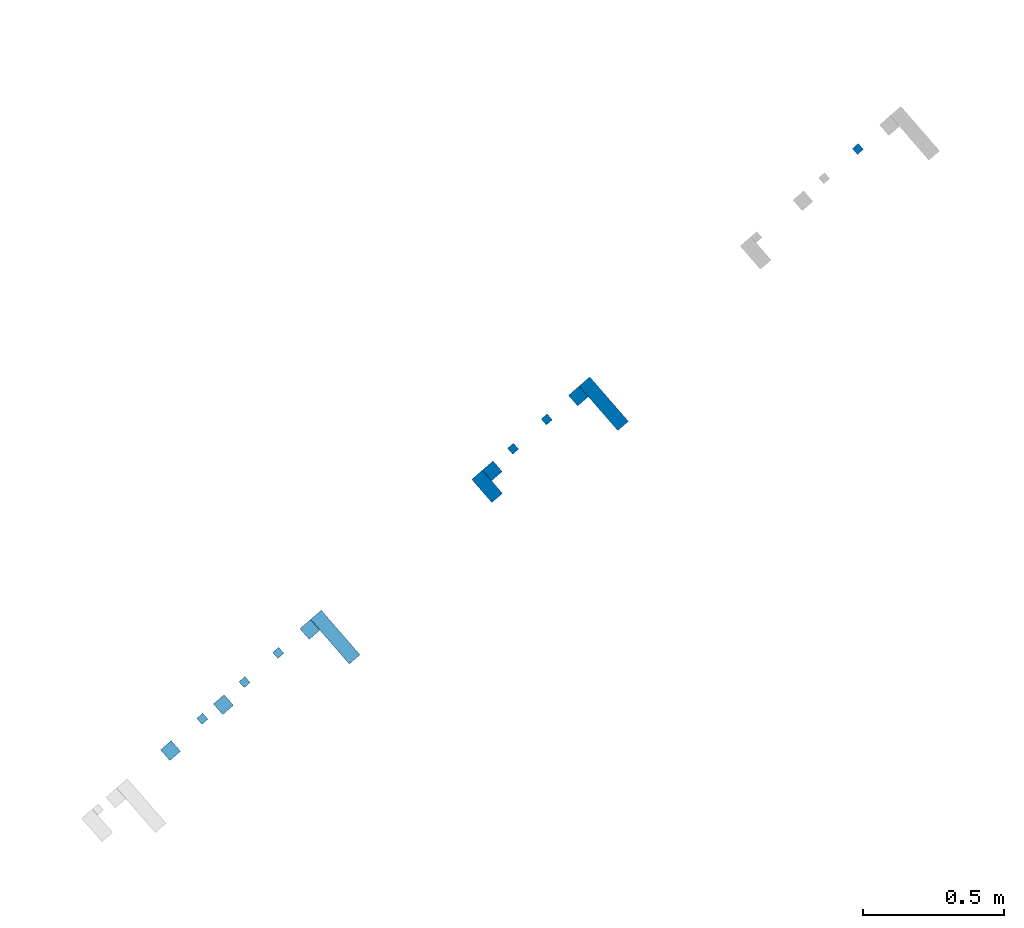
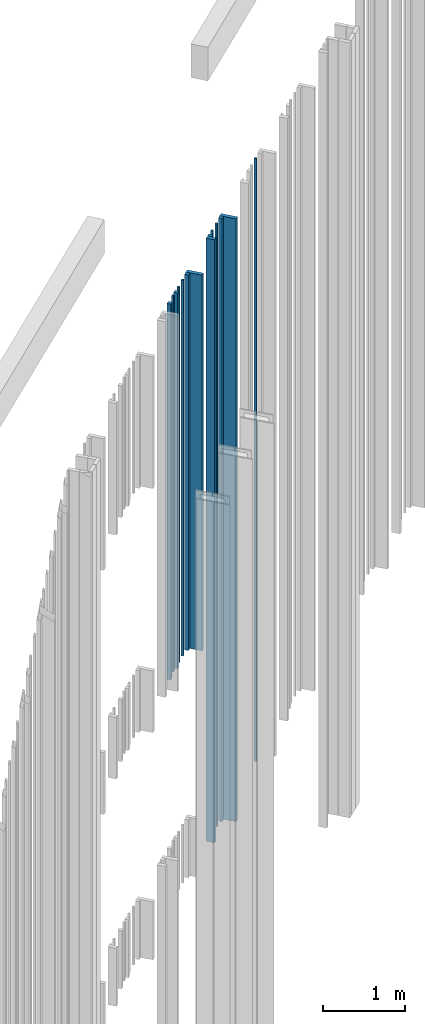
# One storey, part 215 of 390: 14 walls.
"""IFC2X3 building model written with IfcOpenShell, lengths in millimetres."""

from ifc_helpers import new_model, entity, si_unit, converted_unit, derived_unit, money_unit, direction, frame, origin_with_axes, place, context, subcontext, project, spatial, faceted_brep, material, type_object, element, save


model = new_model("IFC2X3")

# Units and contexts
model_context = context("Model", 3, precision=1e-05, world=origin_with_axes(), true_north=direction((0.0, 1.0)))
body_context = subcontext(model_context, "Body", "Model", "MODEL_VIEW")
ifc_project = project(units=[si_unit("LENGTHUNIT", "METRE", prefix="MILLI"), si_unit("AREAUNIT", "SQUARE_METRE"), si_unit("VOLUMEUNIT", "CUBIC_METRE"), converted_unit("PLANEANGLEUNIT", "DEGREE", entity("IfcPlaneAngleMeasure", 0.0174532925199), si_unit("PLANEANGLEUNIT", "RADIAN"), dimensions=[0, 0, 0, 0, 0, 0, 0]), si_unit("SOLIDANGLEUNIT", "STERADIAN"), money_unit("EUR"), converted_unit("TIMEUNIT", "Year", entity("IfcTimeMeasure", 31556926.0), si_unit("TIMEUNIT", "SECOND"), dimensions=[0, 0, 1, 0, 0, 0, 0]), si_unit("MASSUNIT", "GRAM", prefix="KILO"), si_unit("THERMODYNAMICTEMPERATUREUNIT", "DEGREE_CELSIUS"), si_unit("LUMINOUSINTENSITYUNIT", "LUMEN"), si_unit("ENERGYUNIT", "JOULE", prefix="MEGA"), derived_unit("THERMALCONDUCTANCEUNIT", [(si_unit("POWERUNIT", "WATT"), 1), (si_unit("LENGTHUNIT", "METRE"), -1), (si_unit("THERMODYNAMICTEMPERATUREUNIT", "KELVIN"), -1)]), derived_unit("SPECIFICHEATCAPACITYUNIT", [(si_unit("ENERGYUNIT", "JOULE"), 1), (si_unit("MASSUNIT", "GRAM", prefix="KILO"), -1), (si_unit("THERMODYNAMICTEMPERATUREUNIT", "KELVIN"), -1)]), derived_unit("MASSDENSITYUNIT", [(si_unit("MASSUNIT", "GRAM", prefix="KILO"), 1), (si_unit("VOLUMEUNIT", "CUBIC_METRE"), -1)])], contexts=[model_context])

# Site, building, storey
site_placement = place(None, origin_with_axes())
site = spatial("IfcSite", under=ifc_project, at=site_placement, Name="Site", CompositionType="ELEMENT")
building_placement = place(site_placement, origin_with_axes())
building = spatial("IfcBuilding", under=site, at=building_placement, Name="Building", CompositionType="ELEMENT")
storey_placement = place(building_placement, origin_with_axes())
storey = spatial("IfcBuildingStorey", under=building, at=storey_placement, Name="1 korrus", CompositionType="ELEMENT", Elevation=0.0)

# Walls
ifc_material = material(Name="Site specified")
wall_type = type_object("IfcWallType", Name="Puitfassaadi ribistik", PredefinedType="NOTDEFINED")
for number, where, z_axis, x_axis, name in (
    (1, (155862.81752, 80134.6719859, 935.000018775), (0.0, 0.0, 1.0), (-0.754709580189, -0.65605902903, 0.0), "Site specified"),
    (2, (154641.697417, 79073.1684745, 935.000018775), (0.0, 0.0, 1.0), (-0.754709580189, -0.65605902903, 0.0), "Site specified"),
):
    element("IfcWall", number, at=place(storey_placement, frame(where, z_axis=z_axis, x_axis=x_axis)), inside=storey, type_object=wall_type, material=ifc_material, Name=name, context=body_context, shape_type="Brep", body=[
        faceted_brep([(-14.0, -14.0, 8929.99998122), (-14.0, -14.0, 0.0), (14.0, -14.0, 0.0), (14.0, -14.0, 8929.99998122), (-14.0, 14.0, 8929.99998122), (-14.0, 14.0, 0.0), (14.0, 14.0, 0.0), (14.0, 14.0, 8929.99998122)], [[[0, 1, 2, 3]], [[4, 5, 1, 0]], [[2, 1, 5, 6]], [[3, 2, 6, 7]], [[4, 0, 3, 7]], [[7, 6, 5, 4]]]),
    ])
wall_1_placement = place(storey_placement, frame((154549.778403, 78939.601469, 935.000018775), z_axis=(0.0, 0.0, 1.0), x_axis=(-0.754709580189, -0.65605902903, 0.0)))
element("IfcWall", 3, at=wall_1_placement, inside=storey, type_object=wall_type, material=ifc_material, Name="Site specified", context=body_context, shape_type="Brep", body=[
    faceted_brep([(-25.0, -54.5, 8929.99998122), (-25.0, -54.5, 0.0), (25.0, -54.5, 0.0), (25.0, -54.5, 8929.99998122), (-25.0, 54.5, 8929.99998122), (-25.0, 54.5, 0.0), (25.0, 54.5, 0.0), (25.0, 54.5, 8929.99998122)], [[[0, 1, 2, 3]], [[4, 5, 1, 0]], [[2, 1, 5, 6]], [[3, 2, 6, 7]], [[4, 0, 3, 7]], [[7, 6, 5, 4]]]),
])
wall_2_placement = place(storey_placement, frame((154962.954983, 79232.5197406, 935.000018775), z_axis=(0.0, 0.0, 1.0), x_axis=(-0.754709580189, -0.65605902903, 0.0)))
element("IfcWall", 4, at=wall_2_placement, inside=storey, type_object=wall_type, material=ifc_material, Name="Site specified", context=body_context, shape_type="Brep", body=[
    faceted_brep([(-25.0, -104.5, 8929.99998122), (-25.0, -104.5, 0.0), (25.0, -104.5, 0.0), (25.0, -104.5, 8929.99998122), (-25.0, 104.5, 8929.99998122), (-25.0, 104.5, 0.0), (25.0, 104.5, 0.0), (25.0, 104.5, 8929.99998122)], [[[0, 1, 2, 3]], [[4, 5, 1, 0]], [[2, 1, 5, 6]], [[3, 2, 6, 7]], [[4, 0, 3, 7]], [[7, 6, 5, 4]]]),
])
wall_3_placement = place(storey_placement, frame((154012.022499, 78405.8867433, 4300.0), z_axis=(0.0, 0.0, 1.0), x_axis=(-0.754709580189, -0.65605902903, 0.0)))
element("IfcWall", 5, at=wall_3_placement, inside=storey, type_object=wall_type, material=ifc_material, Name="Site specified", context=body_context, shape_type="Brep", body=[
    faceted_brep([(-25.0, -104.5, 5565.0), (-25.0, -104.5, 0.0), (25.0, -104.5, 0.0), (25.0, -104.5, 5565.0), (-25.0, 104.5, 5565.0), (-25.0, 104.5, 0.0), (25.0, 104.5, 0.0), (25.0, 104.5, 5565.0)], [[[0, 1, 2, 3]], [[4, 5, 1, 0]], [[2, 1, 5, 6]], [[3, 2, 6, 7]], [[4, 0, 3, 7]], [[7, 6, 5, 4]]]),
])
wall_4_placement = place(storey_placement, frame((154760.941531, 79176.8258011, 935.000018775), z_axis=(0.0, 0.0, 1.0), x_axis=(-0.754709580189, -0.65605902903, 0.0)))
element("IfcWall", 6, at=wall_4_placement, inside=storey, type_object=wall_type, material=ifc_material, Name="Site specified", context=body_context, shape_type="Brep", body=[
    faceted_brep([(-14.0, -14.0, 8929.99998122), (-14.0, -14.0, 0.0), (14.0, -14.0, 0.0), (14.0, -14.0, 8929.99998122), (-14.0, 14.0, 8929.99998122), (-14.0, 14.0, 0.0), (14.0, 14.0, 0.0), (14.0, 14.0, 8929.99998122)], [[[0, 1, 2, 3]], [[4, 5, 1, 0]], [[2, 1, 5, 6]], [[3, 2, 6, 7]], [[4, 0, 3, 7]], [[7, 6, 5, 4]]]),
])
for number, where, z_axis, x_axis, name in (
    (7, (154568.160141, 78994.6683531, 935.000018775), (0.0, 0.0, 1.0), (-0.754709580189, -0.65605902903, 0.0), "Site specified"),
    (8, (154873.062811, 79259.7162008, 935.000018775), (0.0, 0.0, 1.0), (-0.754709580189, -0.65605902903, 0.0), "Site specified"),
):
    element("IfcWall", number, at=place(storey_placement, frame(where, z_axis=z_axis, x_axis=x_axis)), inside=storey, type_object=wall_type, material=ifc_material, Name=name, context=body_context, shape_type="Brep", body=[
        faceted_brep([(-25.0, -25.0, 8929.99998122), (-25.0, -25.0, 0.0), (25.0, -25.0, 0.0), (25.0, -25.0, 8929.99998122), (-25.0, 25.0, 8929.99998122), (-25.0, 25.0, 0.0), (25.0, 25.0, 0.0), (25.0, 25.0, 8929.99998122)], [[[0, 1, 2, 3]], [[4, 5, 1, 0]], [[2, 1, 5, 6]], [[3, 2, 6, 7]], [[4, 0, 3, 7]], [[7, 6, 5, 4]]]),
    ])
wall_5_placement = place(storey_placement, frame((153810.009046, 78350.1928038, 4300.0), z_axis=(0.0, 0.0, 1.0), x_axis=(-0.754709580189, -0.65605902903, 0.0)))
element("IfcWall", 9, at=wall_5_placement, inside=storey, type_object=wall_type, material=ifc_material, Name="Site specified", context=body_context, shape_type="Brep", body=[
    faceted_brep([(-14.0, -14.0, 5565.0), (-14.0, -14.0, 0.0), (14.0, -14.0, 0.0), (14.0, -14.0, 5565.0), (-14.0, 14.0, 5565.0), (-14.0, 14.0, 0.0), (14.0, 14.0, 0.0), (14.0, 14.0, 5565.0)], [[[0, 1, 2, 3]], [[4, 5, 1, 0]], [[2, 1, 5, 6]], [[3, 2, 6, 7]], [[4, 0, 3, 7]], [[7, 6, 5, 4]]]),
])
for number, where, z_axis, x_axis, name in (
    (10, (153615.718238, 78166.7232377, 4300.0), (0.0, 0.0, 1.0), (-0.754709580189, -0.65605902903, 0.0), "Site specified"),
    (11, (153922.130327, 78433.0832035, 4300.0), (0.0, 0.0, 1.0), (-0.754709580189, -0.65605902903, 0.0), "Site specified"),
):
    element("IfcWall", number, at=place(storey_placement, frame(where, z_axis=z_axis, x_axis=x_axis)), inside=storey, type_object=wall_type, material=ifc_material, Name=name, context=body_context, shape_type="Brep", body=[
        faceted_brep([(-25.0, -25.0, 5565.0), (-25.0, -25.0, 0.0), (25.0, -25.0, 0.0), (25.0, -25.0, 5565.0), (-25.0, 25.0, 5565.0), (-25.0, 25.0, 0.0), (25.0, 25.0, 0.0), (25.0, 25.0, 5565.0)], [[[0, 1, 2, 3]], [[4, 5, 1, 0]], [[2, 1, 5, 6]], [[3, 2, 6, 7]], [[4, 0, 3, 7]], [[7, 6, 5, 4]]]),
    ])
wall_6_placement = place(storey_placement, frame((153690.764933, 78246.5354773, 4300.0), z_axis=(0.0, 0.0, 1.0), x_axis=(-0.754709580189, -0.65605902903, 0.0)))
element("IfcWall", 12, at=wall_6_placement, inside=storey, type_object=wall_type, material=ifc_material, Name="Site specified", context=body_context, shape_type="Brep", body=[
    faceted_brep([(-14.0, -14.0, 5565.0), (-14.0, -14.0, 0.0), (14.0, -14.0, 0.0), (14.0, -14.0, 5565.0), (-14.0, 14.0, 5565.0), (-14.0, 14.0, 0.0), (14.0, 14.0, 0.0), (14.0, 14.0, 5565.0)], [[[0, 1, 2, 3]], [[4, 5, 1, 0]], [[2, 1, 5, 6]], [[3, 2, 6, 7]], [[4, 0, 3, 7]], [[7, 6, 5, 4]]]),
])
wall_7_placement = place(storey_placement, frame((153428.550262, 78004.0205985, 4300.0), z_axis=(0.0, 0.0, 1.0), x_axis=(-0.754709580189, -0.65605902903, 0.0)))
element("IfcWall", 13, at=wall_7_placement, inside=storey, type_object=wall_type, material=ifc_material, Name="Site specified", context=body_context, shape_type="Brep", body=[
    faceted_brep([(-25.0, -25.0, 5565.0), (-25.0, -25.0, 0.0), (25.0, -25.0, 0.0), (25.0, -25.0, 5565.0), (-25.0, 25.0, 5565.0), (-25.0, 25.0, 0.0), (25.0, 25.0, 0.0), (25.0, 25.0, 5565.0)], [[[0, 1, 2, 3]], [[4, 5, 1, 0]], [[2, 1, 5, 6]], [[3, 2, 6, 7]], [[4, 0, 3, 7]], [[7, 6, 5, 4]]]),
])
wall_8_placement = place(storey_placement, frame((153541.332436, 78116.6357895, 4300.0), z_axis=(0.0, 0.0, 1.0), x_axis=(-0.754709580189, -0.65605902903, 0.0)))
element("IfcWall", 14, at=wall_8_placement, inside=storey, type_object=wall_type, material=ifc_material, Name="Site specified", context=body_context, shape_type="Brep", body=[
    faceted_brep([(-14.0, -14.0, 5565.0), (-14.0, -14.0, 0.0), (14.0, -14.0, 0.0), (14.0, -14.0, 5565.0), (-14.0, 14.0, 5565.0), (-14.0, 14.0, 0.0), (14.0, 14.0, 0.0), (14.0, 14.0, 5565.0)], [[[0, 1, 2, 3]], [[4, 5, 1, 0]], [[2, 1, 5, 6]], [[3, 2, 6, 7]], [[4, 0, 3, 7]], [[7, 6, 5, 4]]]),
])

save(model, "model.ifc")
